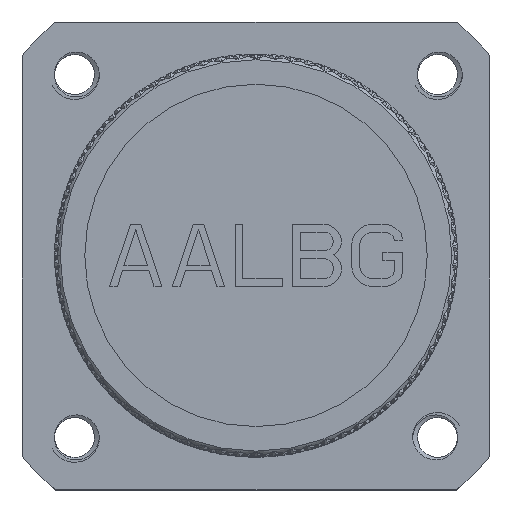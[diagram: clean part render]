
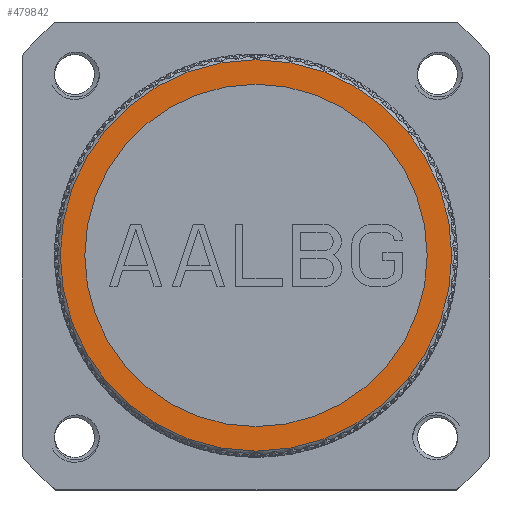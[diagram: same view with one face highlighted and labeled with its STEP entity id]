
A CAD part, top view. The second image highlights one B-rep face of the part: STEP entity #479842.
In plain terms, the highlighted planar face has unit normal (0, 0, 1).
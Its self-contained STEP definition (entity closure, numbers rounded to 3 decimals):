
#137671=CARTESIAN_POINT('',(0.,0.,30.85));
#137672=DIRECTION('',(0.,0.,1.));
#137673=DIRECTION('',(-1.,0.,0.));
#137674=AXIS2_PLACEMENT_3D('',#137671,#137672,#137673);
#137676=CARTESIAN_POINT('',(0.,0.,30.85));
#137677=DIRECTION('',(0.,0.,-1.));
#137678=DIRECTION('',(-1.,0.,0.));
#137679=AXIS2_PLACEMENT_3D('',#137676,#137677,#137678);
#137681=CARTESIAN_POINT('',(0.,0.,30.85));
#137682=DIRECTION('',(0.,0.,-1.));
#137683=DIRECTION('',(1.,0.,0.));
#137684=AXIS2_PLACEMENT_3D('',#137681,#137682,#137683);
#137686=CARTESIAN_POINT('',(0.,0.,30.85));
#137687=DIRECTION('',(0.,0.,-1.));
#137688=DIRECTION('',(-1.,0.,0.));
#137689=AXIS2_PLACEMENT_3D('',#137686,#137687,#137688);
#145445=CARTESIAN_POINT('',(15.,0.,30.85));
#145446=CARTESIAN_POINT('',(-15.,0.,30.85));
#145447=VERTEX_POINT('',#145445);
#145448=VERTEX_POINT('',#145446);
#145477=CARTESIAN_POINT('',(-17.15,0.,30.85));
#145478=CARTESIAN_POINT('',(17.15,0.,30.85));
#145479=VERTEX_POINT('',#145477);
#145480=VERTEX_POINT('',#145478);
#479827=CARTESIAN_POINT('',(0.,0.,30.85));
#479828=DIRECTION('',(0.,0.,1.));
#479829=DIRECTION('',(-1.,0.,0.));
#479830=AXIS2_PLACEMENT_3D('',#479827,#479828,#479829);
#479831=PLANE('246',#479830);
#479832=ORIENTED_EDGE('12393',*,*,#303540,.F.);
#479833=ORIENTED_EDGE('12396',*,*,#303148,.T.);
#479834=EDGE_LOOP('246',(#479832,#479833));
#479835=FACE_OUTER_BOUND('246',#479834,.F.);
#479837=ORIENTED_EDGE('12340',*,*,#479836,.F.);
#479839=ORIENTED_EDGE('12341',*,*,#479838,.F.);
#479840=EDGE_LOOP('246',(#479837,#479839));
#479841=FACE_BOUND('246',#479840,.F.);
#137675=CIRCLE('12393',#137674,17.15);
#137680=CIRCLE('12396',#137679,17.15);
#137685=CIRCLE('12340',#137684,15.);
#137690=CIRCLE('12341',#137689,15.);
#303148=EDGE_CURVE('12396',#145479,#145480,#137680,.T.);
#303540=EDGE_CURVE('12393',#145479,#145480,#137675,.T.);
#479836=EDGE_CURVE('12340',#145447,#145448,#137685,.T.);
#479838=EDGE_CURVE('12341',#145448,#145447,#137690,.T.);
#479842=ADVANCED_FACE('246',(#479835,#479841),#479831,.T.);
